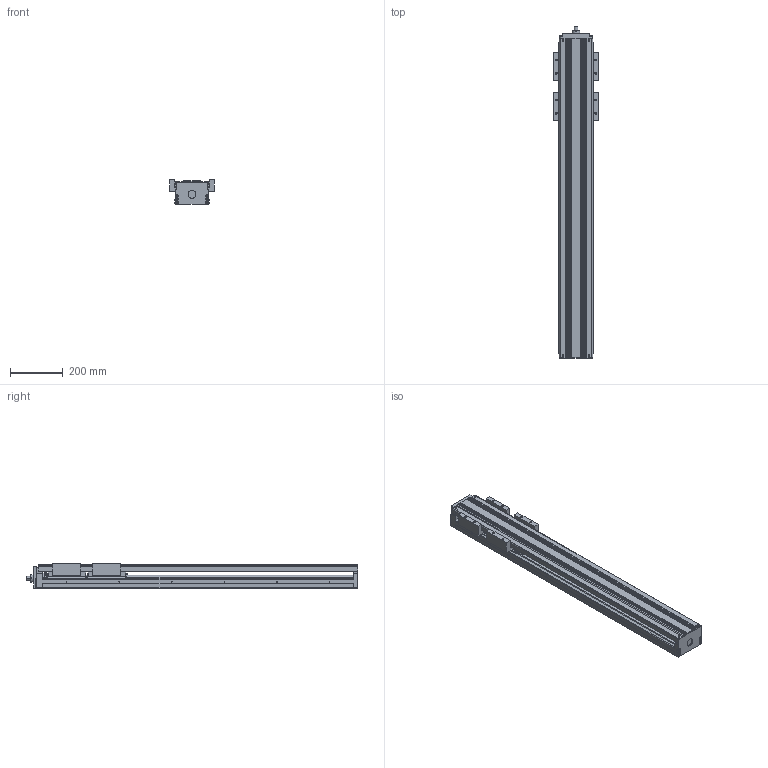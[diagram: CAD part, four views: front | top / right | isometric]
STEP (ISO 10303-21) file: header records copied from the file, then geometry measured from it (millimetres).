
FILE_DESCRIPTION(('no description'),'unknown implementation level');
FILE_NAME('KK13025P1180A2H0C00_FILE_64.stp',' ',('HIWIN GmbH'),('CADClick - KiM GmbH - www.kimweb.de'),'unknown preprocess','ACIS','unknown authorization');
FILE_SCHEMA(('automotive_design'));
Length unit declared in the file: millimetre
Products named in the file (3): KK13025P1180A2H0C00_FILE_1; KK130_FILE; KK13025P1180A2H0C00_FILE
Bounding box: 170 x 1262 x 94 mm (x, y, z)
Volume: 6795520.2 mm3; surface area: 1287221.4 mm2
Topology: 3 solids, 23 shells, 1243 faces, 3116 edges, 2010 vertices
Faces by surface type: plane 789, cylinder 394, torus 52, sphere 4, cone 4
Entity records: 72986 total; most frequent: DIRECTION 6592, CARTESIAN_POINT 6584, STYLED_ITEM 6368, PRESENTATION_STYLE_ASSIGNMENT 6368, COLOUR_RGB 6368, ORIENTED_EDGE 6224, EDGE_CURVE 3112, CURVE_STYLE 3112
